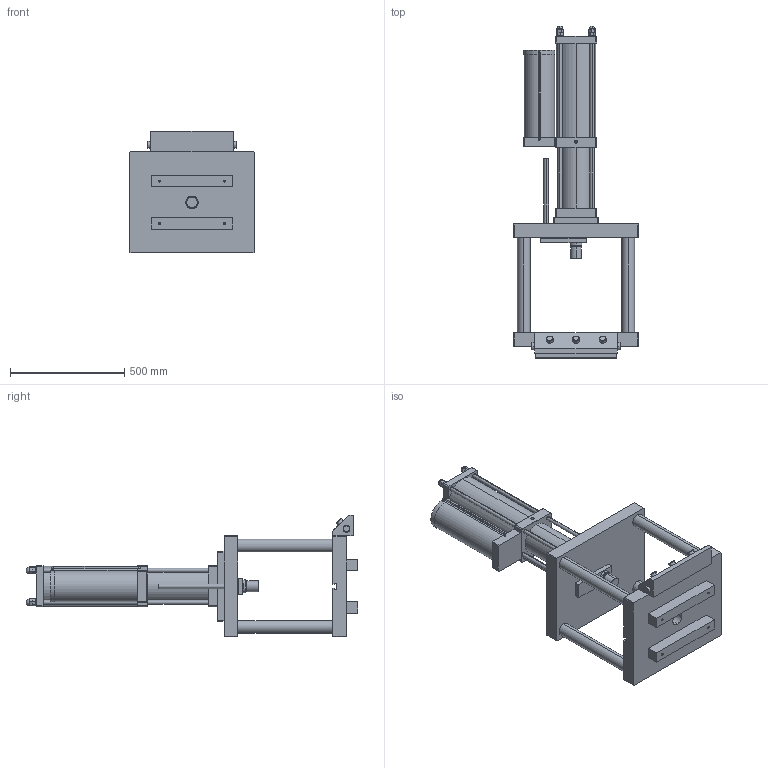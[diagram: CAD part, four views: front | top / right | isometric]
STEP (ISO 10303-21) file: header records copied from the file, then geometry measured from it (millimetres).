
FILE_DESCRIPTION (( 'STEP AP203' ), '1' );
FILE_NAME ('MMH-15T20T.STEP', '2016-03-29T07:41:38', ( 'WIN' ), ( '' ), 'SwSTEP 2.0', 'SolidWorks 2014', '' );
FILE_SCHEMA (( 'CONFIG_CONTROL_DESIGN' ));
Length unit declared in the file: millimetre
Products named in the file (1): MMH-15T20T
Bounding box: 542 x 1450.5 x 532 mm (x, y, z)
Volume: 47001720.3 mm3; surface area: 3284293.8 mm2
Topology: 1 solids, 4 shells, 579 faces, 1378 edges, 847 vertices
Faces by surface type: plane 309, cylinder 148, torus 51, cone 47, bspline 24
Entity records: 17738 total; most frequent: CARTESIAN_POINT 4161, DIRECTION 2911, ORIENTED_EDGE 2704, EDGE_CURVE 1352, AXIS2_PLACEMENT_3D 1047, VERTEX_POINT 847, LINE 817, VECTOR 817
